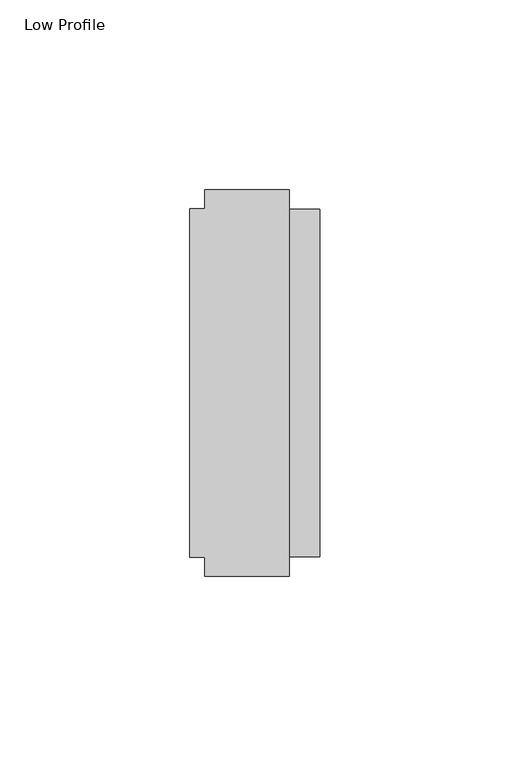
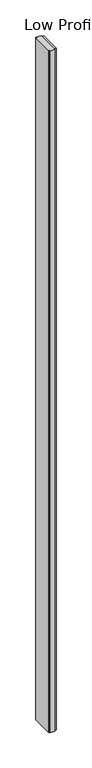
"""IFC4 building model written with IfcOpenShell, lengths in millimetres: furniture geometry, Haworth_Enclose_Accessories_WallStart : Low Profile."""

from ifc_helpers import new_model, si_unit, origin, origin_with_axes, place, context, project, spatial, polyline, outline, extrude, source, transform, mapped, element, save


def low_profile_122eb835(model_context):
    return source(origin(), model_context, "Body", "SweptSolid", [
        extrude(outline(polyline([(29.9771531, 61.348805), (29.9771531, 66.301805), (52.2021531, 66.301805), (52.2021531, -35.298195), (29.9771531, -35.298195), (29.9771531, -30.345195), (26.0401531, -30.345195), (26.0401531, 61.348805), (29.9771531, 61.348805)])), origin_with_axes(), (0.0, 0.0, 1.0), 3048.0),
        extrude(outline(polyline([(60.2031531, 61.221805), (60.2031531, -30.218195), (52.2021531, -30.218195), (52.2021531, 61.221805), (60.2031531, 61.221805)])), origin_with_axes(), (0.0, 0.0, 1.0), 3048.0),
    ])


if __name__ == "__main__":
    model = new_model("IFC4")
    model_context = context("Model", 3, world=origin())
    ifc_project = project(units=[si_unit("LENGTHUNIT", "METRE", prefix="MILLI")], contexts=[model_context])
    site = spatial("IfcSite", under=ifc_project)
    building = spatial("IfcBuilding", under=site)
    placement = place(None, origin())
    low_profile_shape = low_profile_122eb835(model_context)
    element("IfcFurniture", 1, ObjectType="Haworth_Enclose_Accessories_WallStart : Low Profile", at=placement, inside=building, context=model_context, shape_type="MappedRepresentation", body=[
        mapped(low_profile_shape, transform((0.0, 0.0, 0.0), x_axis=(1.0, 0.0, 0.0), y_axis=(0.0, 1.0, 0.0), z_axis=(0.0, 0.0, 1.0))),
    ])
    save(model, "model.ifc")
